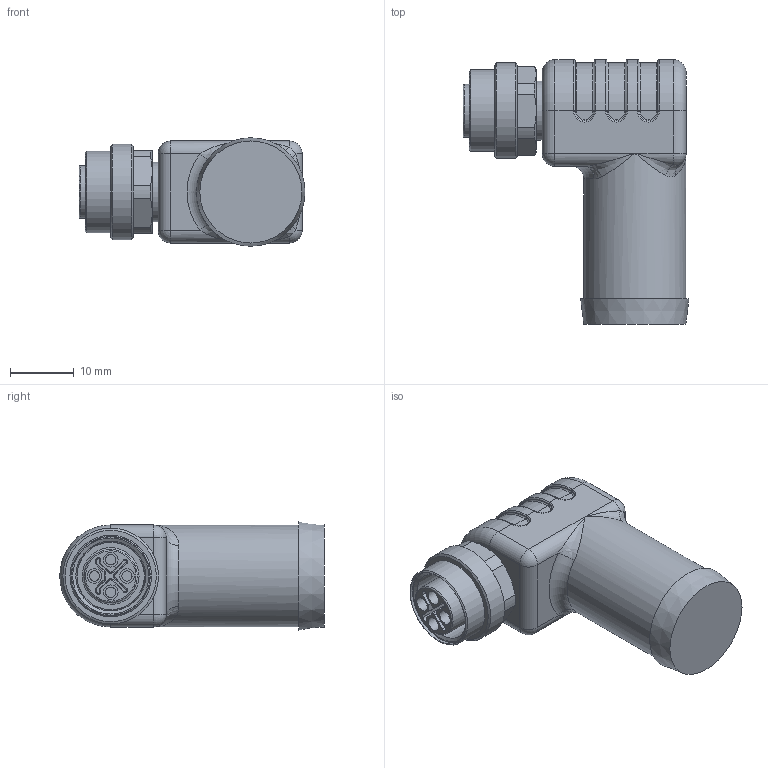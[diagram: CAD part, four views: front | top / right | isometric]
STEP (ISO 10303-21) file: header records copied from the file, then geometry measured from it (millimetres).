
FILE_DESCRIPTION (( 'STEP AP203' ), '1' );
FILE_NAME ('WKP46PS.step', '2020-01-13T16:44:09', ( '' ), ( '' ), 'SwSTEP 2.0', 'SolidWorks 2017', '' );
FILE_SCHEMA (( 'CONFIG_CONTROL_DESIGN' ));
Length unit declared in the file: millimetre
Products named in the file (1): WKP46PS
Bounding box: 35.45 x 41.5 x 17 mm (x, y, z)
Volume: 11362.2 mm3; surface area: 4656.7 mm2
Topology: 1 solids, 1 shells, 219 faces, 489 edges, 288 vertices
Faces by surface type: cylinder 90, plane 63, torus 27, cone 19, bspline 16, sphere 4
Full cylindrical faces by diameter (mm): 1.6 x4, 2.1 x4, 2.3 x4, 8.3 x1, 9.3 x1, 10.55 x1, 10.95 x1, 12.3 x1, 12.8 x1, 15 x1, 16 x1
Entity records: 6694 total; most frequent: CARTESIAN_POINT 1978, DIRECTION 1024, ORIENTED_EDGE 890, EDGE_CURVE 445, AXIS2_PLACEMENT_3D 420, VERTEX_POINT 278, EDGE_LOOP 269, FACE_OUTER_BOUND 241
